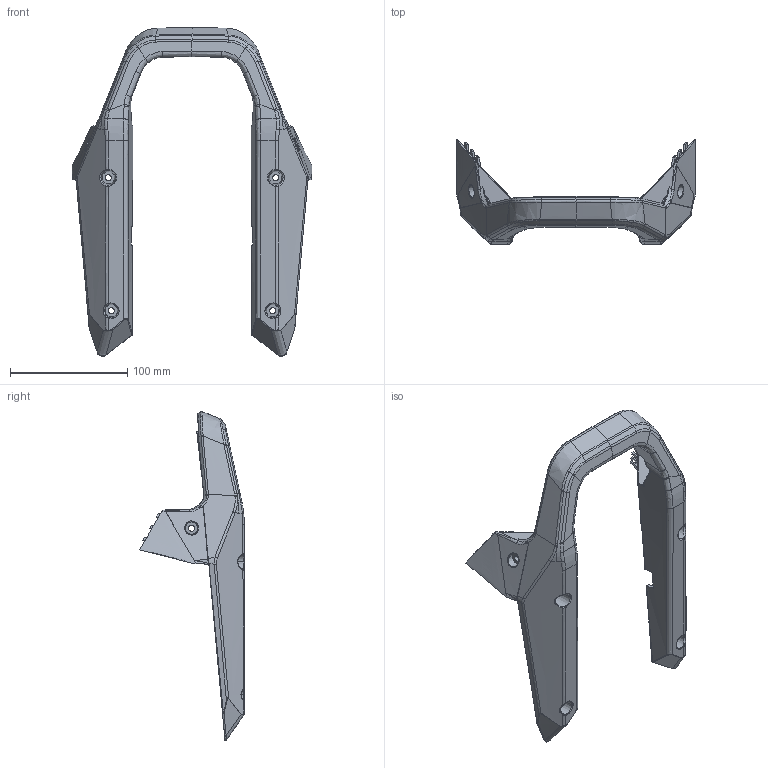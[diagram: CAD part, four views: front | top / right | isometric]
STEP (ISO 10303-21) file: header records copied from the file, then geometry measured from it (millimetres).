
FILE_DESCRIPTION((''),'2;1');
FILE_NAME('P60002','2025-07-29T19:32:09',('Administrator'),(''),'CREO PARAMETRIC BY PTC INC, 2023073','CREO PARAMETRIC BY PTC INC, 2023073','');
FILE_SCHEMA(('AUTOMOTIVE_DESIGN { 1 0 10303 214 1 1 1 1 }'));
Products named in the file (1): P60002
Bounding box: 204.49 x 89.24 x 280.41 mm (x, y, z)
Volume: 301282.8 mm3; surface area: 136693.2 mm2
Topology: 1 solids, 1 shells, 2632 faces, 6158 edges, 3562 vertices
Faces by surface type: bspline 1563, cylinder 418, plane 359, sphere 246, extrusion 28, cone 18
Entity records: 165546 total; most frequent: CARTESIAN_POINT 99235, ORIENTED_EDGE 12312, DIRECTION 6402, PRESENTATION_STYLE_ASSIGNMENT 6157, STYLED_ITEM 6157, CURVE_STYLE 6156, EDGE_CURVE 6156, VERTEX_POINT 3562
